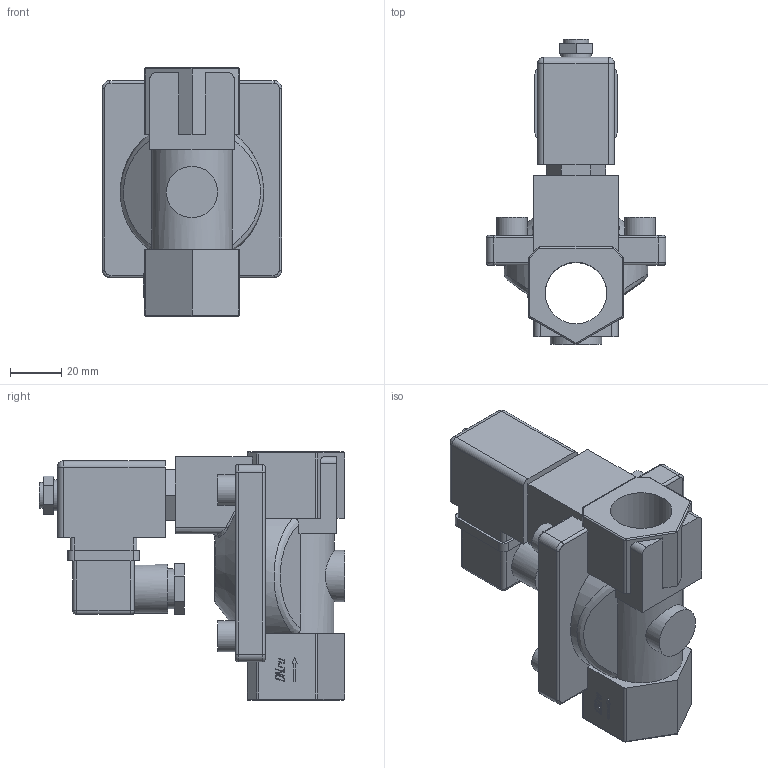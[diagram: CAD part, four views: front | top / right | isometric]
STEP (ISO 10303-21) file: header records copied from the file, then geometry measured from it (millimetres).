
FILE_DESCRIPTION(('STEP AP242'), '1');
FILE_NAME('VS431-VT-NC-24VAC 1 孰囡囗 尻蝠铎嚆龛蝽 DN.ru 捏25 畜16', '', ('UNSPECIFIED'), ('UNSPECIFIED'), 'C3D Converter', 'C3D Toolkit', '');
FILE_SCHEMA(('AP242_MANAGED_MODEL_BASED_3D_ENGINEERING_MIM_LF { 1 0 10303 442 1 1 4 }'));
Length unit declared in the file: millimetre
Products named in the file (1): VS431-VT-NC-24VAC 1
Bounding box: 70 x 119 x 97 mm (x, y, z)
Volume: 219928.5 mm3; surface area: 44458.1 mm2
Topology: 1 solids, 1 shells, 318 faces, 808 edges, 511 vertices
Faces by surface type: plane 157, cylinder 81, extrusion 40, torus 21, bspline 12, sphere 6, cone 1
Full cylindrical faces by diameter (mm): 10 x1, 12 x5, 15.5 x1, 19 x1, 20 x1, 24 x1
Entity records: 13714 total; most frequent: CARTESIAN_POINT 5301, ORIENTED_EDGE 1584, DIRECTION 1418, EDGE_CURVE 792, VECTOR 532, VERTEX_POINT 511, LINE 492, AXIS2_PLACEMENT_3D 443
